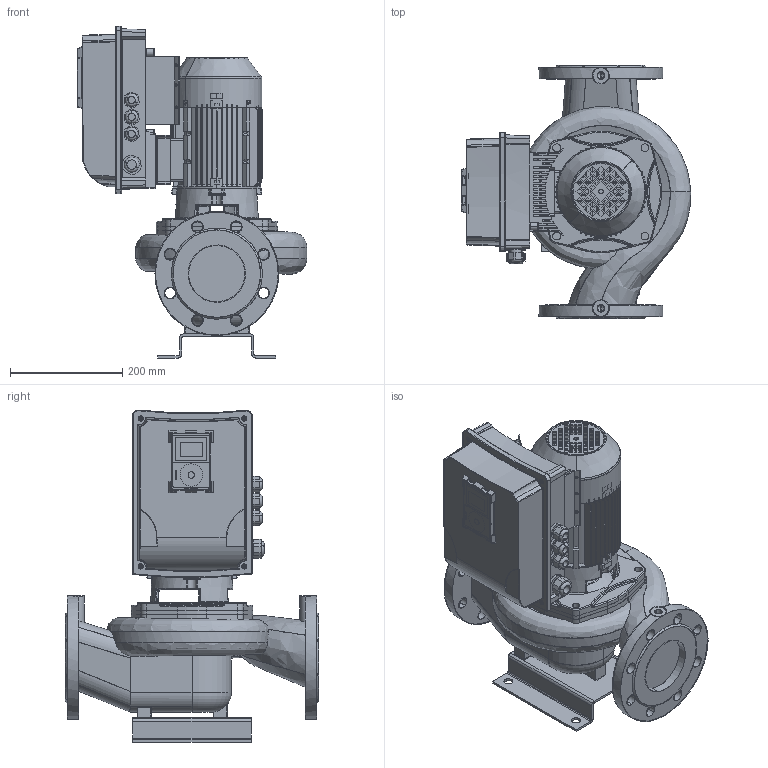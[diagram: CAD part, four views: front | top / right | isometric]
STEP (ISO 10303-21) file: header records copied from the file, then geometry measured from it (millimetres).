
FILE_DESCRIPTION(('STEP AP214'),'1');
FILE_NAME('export.stp','2018-06-01T12:36:36',(' '),(' '),'Spatial InterOp 3D',' ',' ');
FILE_SCHEMA(('AUTOMOTIVE_DESIGN { 1 0 10303 214 1 1 1 1 }'));
Length unit declared in the file: millimetre
Products named in the file (26): 160022; 160003; V_MKP80-2-F19_VS; 480032; 480031___; 480034; 480033___; 160133; SOVITUSPALA; Vacon_MS2; G43699; Vacon20CP_MS2; MS2_bottom_final; P101407; MS2_cover_final; Vacon_Display; CAD-3D-VACON-M100-Display.sldasm; Vacon_display_pla; Vacon_display_scr; DIN_966-M5x10; M20_tiivisteholkk; M25_tiivisteholkk; W_AL11024750_KPVS; V_TLL65AB80A1102; V_PPAL1102; V_JALKA35973
Assembly tree (30 placements, depth 6):
  W_AL11024750_KPVS
    V_MKP80-2-F19_VS
      160022
        160003
      480032
        480031___
      480034
        480033___
      160133
      SOVITUSPALA
      Vacon_MS2
        G43699
        Vacon20CP_MS2
          MS2_bottom_final
          P101407
          MS2_cover_final
          Vacon_Display
            CAD-3D-VACON-M100-Display.sldasm
            Vacon_display_pla
            Vacon_display_scr
          DIN_966-M5x10  x4
          M20_tiivisteholkk  x3
          M25_tiivisteholkk
    V_TLL65AB80A1102
    V_PPAL1102
    V_JALKA35973
Bounding box: 408.31 x 450 x 590.3 mm (x, y, z)
Volume: 3883985.8 mm3; surface area: 2669909.6 mm2
Topology: 22 solids, 1495 shells, 5544 faces, 18505 edges, 14403 vertices
Faces by surface type: bspline 1885, plane 1454, cylinder 1361, torus 453, cone 280, sphere 103, offset 8
Entity records: 262582 total; most frequent: CARTESIAN_POINT 110724, ORIENTED_EDGE 28030, DIRECTION 19311, EDGE_CURVE 17837, VERTEX_POINT 14085, B_SPLINE_CURVE_WITH_KNOTS 7950, AXIS2_PLACEMENT_3D 7454, EDGE_LOOP 5838
